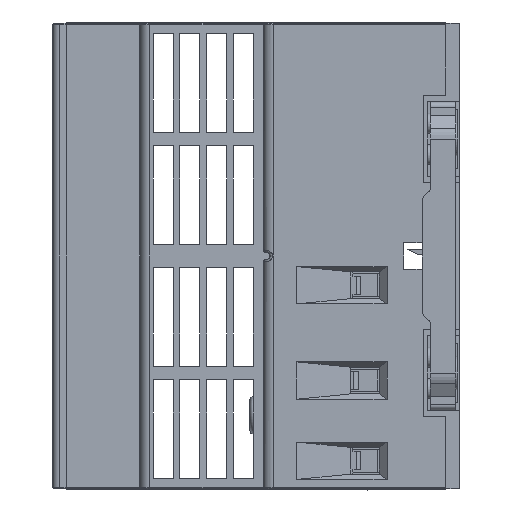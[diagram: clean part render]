
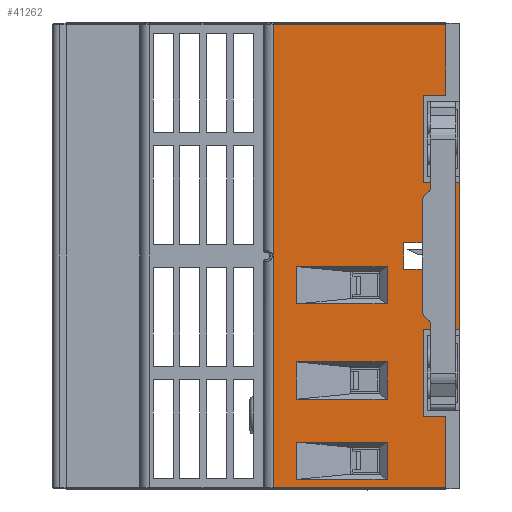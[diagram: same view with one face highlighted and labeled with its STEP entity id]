
A CAD part, left-side view. The second image highlights one B-rep face of the part: STEP entity #41262.
In plain terms, the highlighted planar face has unit normal (-1, 0, 0).
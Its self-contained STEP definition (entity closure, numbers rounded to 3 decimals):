
#8876=ORIENTED_EDGE('',*,*,#16812,.F.);
#8877=ORIENTED_EDGE('',*,*,#16806,.F.);
#8878=ORIENTED_EDGE('',*,*,#16803,.F.);
#8879=ORIENTED_EDGE('',*,*,#16811,.T.);
#8880=ORIENTED_EDGE('',*,*,#16577,.F.);
#8881=ORIENTED_EDGE('',*,*,#16689,.T.);
#8882=ORIENTED_EDGE('',*,*,#16684,.F.);
#8883=ORIENTED_EDGE('',*,*,#16692,.T.);
#8884=ORIENTED_EDGE('',*,*,#16813,.T.);
#8885=ORIENTED_EDGE('',*,*,#16694,.F.);
#8886=ORIENTED_EDGE('',*,*,#16679,.F.);
#8887=ORIENTED_EDGE('',*,*,#16687,.F.);
#8888=ORIENTED_EDGE('',*,*,#16814,.F.);
#8889=ORIENTED_EDGE('',*,*,#16815,.T.);
#8890=ORIENTED_EDGE('',*,*,#16816,.T.);
#8891=ORIENTED_EDGE('',*,*,#16817,.F.);
#8892=ORIENTED_EDGE('',*,*,#16818,.T.);
#8893=ORIENTED_EDGE('',*,*,#16819,.F.);
#8894=ORIENTED_EDGE('',*,*,#16820,.F.);
#8895=ORIENTED_EDGE('',*,*,#16821,.T.);
#8896=ORIENTED_EDGE('',*,*,#16822,.F.);
#8897=ORIENTED_EDGE('',*,*,#16555,.T.);
#8898=ORIENTED_EDGE('',*,*,#16560,.F.);
#8899=ORIENTED_EDGE('',*,*,#16559,.F.);
#8900=ORIENTED_EDGE('',*,*,#16823,.F.);
#8901=ORIENTED_EDGE('',*,*,#16824,.F.);
#8902=ORIENTED_EDGE('',*,*,#15704,.F.);
#8903=ORIENTED_EDGE('',*,*,#16825,.F.);
#8904=ORIENTED_EDGE('',*,*,#16826,.F.);
#8905=ORIENTED_EDGE('',*,*,#16827,.T.);
#8906=ORIENTED_EDGE('',*,*,#16828,.F.);
#8907=ORIENTED_EDGE('',*,*,#16829,.F.);
#15704=EDGE_CURVE('',#21198,#21199,#26470,.T.);
#16555=EDGE_CURVE('',#21821,#21824,#27138,.T.);
#16559=EDGE_CURVE('',#21828,#21826,#27142,.T.);
#16560=EDGE_CURVE('',#21826,#21824,#27143,.T.);
#16577=EDGE_CURVE('',#21842,#21843,#27160,.T.);
#16679=EDGE_CURVE('',#21926,#21927,#27248,.T.);
#16684=EDGE_CURVE('',#21931,#21932,#27253,.T.);
#16687=EDGE_CURVE('',#21843,#21926,#27256,.T.);
#16689=EDGE_CURVE('',#21842,#21932,#27258,.T.);
#16692=EDGE_CURVE('',#21931,#21934,#27261,.T.);
#16694=EDGE_CURVE('',#21927,#21936,#27263,.T.);
#16803=EDGE_CURVE('',#22037,#22038,#27358,.T.);
#16806=EDGE_CURVE('',#22038,#22040,#27361,.T.);
#16811=EDGE_CURVE('',#22037,#22041,#27366,.T.);
#16812=EDGE_CURVE('',#22040,#22041,#27367,.T.);
#16813=EDGE_CURVE('',#21934,#21936,#27368,.T.);
#16814=EDGE_CURVE('',#22042,#22043,#27369,.T.);
#16815=EDGE_CURVE('',#22042,#22044,#27370,.T.);
#16816=EDGE_CURVE('',#22044,#22045,#27371,.T.);
#16817=EDGE_CURVE('',#22043,#22045,#27372,.T.);
#16818=EDGE_CURVE('',#22046,#22047,#27373,.T.);
#16819=EDGE_CURVE('',#22048,#22047,#27374,.T.);
#16820=EDGE_CURVE('',#22049,#22048,#27375,.T.);
#16821=EDGE_CURVE('',#22049,#22046,#27376,.T.);
#16822=EDGE_CURVE('',#21821,#22050,#27377,.T.);
#16823=EDGE_CURVE('',#22051,#21828,#27378,.T.);
#16824=EDGE_CURVE('',#21199,#22051,#27379,.T.);
#16825=EDGE_CURVE('',#22052,#21198,#27380,.T.);
#16826=EDGE_CURVE('',#22053,#22052,#27381,.T.);
#16827=EDGE_CURVE('',#22053,#22054,#27382,.T.);
#16828=EDGE_CURVE('',#22055,#22054,#27383,.T.);
#16829=EDGE_CURVE('',#22050,#22055,#27384,.T.);
#21198=VERTEX_POINT('',#70815);
#21199=VERTEX_POINT('',#70817);
#21821=VERTEX_POINT('',#72626);
#21824=VERTEX_POINT('',#72631);
#21826=VERTEX_POINT('',#72636);
#21828=VERTEX_POINT('',#72640);
#21842=VERTEX_POINT('',#72678);
#21843=VERTEX_POINT('',#72680);
#21926=VERTEX_POINT('',#72962);
#21927=VERTEX_POINT('',#72964);
#21931=VERTEX_POINT('',#72973);
#21932=VERTEX_POINT('',#72975);
#21934=VERTEX_POINT('',#72987);
#21936=VERTEX_POINT('',#72993);
#22037=VERTEX_POINT('',#73214);
#22038=VERTEX_POINT('',#73216);
#22040=VERTEX_POINT('',#73222);
#22041=VERTEX_POINT('',#73228);
#22042=VERTEX_POINT('',#73235);
#22043=VERTEX_POINT('',#73236);
#22044=VERTEX_POINT('',#73238);
#22045=VERTEX_POINT('',#73240);
#22046=VERTEX_POINT('',#73243);
#22047=VERTEX_POINT('',#73244);
#22048=VERTEX_POINT('',#73246);
#22049=VERTEX_POINT('',#73248);
#22050=VERTEX_POINT('',#73251);
#22051=VERTEX_POINT('',#73253);
#22052=VERTEX_POINT('',#73256);
#22053=VERTEX_POINT('',#73258);
#22054=VERTEX_POINT('',#73260);
#22055=VERTEX_POINT('',#73262);
#26470=LINE('',#70816,#32093);
#27138=LINE('',#72632,#32761);
#27142=LINE('',#72641,#32765);
#27143=LINE('',#72643,#32766);
#27160=LINE('',#72679,#32783);
#27248=LINE('',#72963,#32871);
#27253=LINE('',#72974,#32876);
#27256=LINE('',#72979,#32879);
#27258=LINE('',#72982,#32881);
#27261=LINE('',#72988,#32884);
#27263=LINE('',#72992,#32886);
#27358=LINE('',#73215,#32981);
#27361=LINE('',#73221,#32984);
#27366=LINE('',#73229,#32989);
#27367=LINE('',#73231,#32990);
#27368=LINE('',#73233,#32991);
#27369=LINE('',#73234,#32992);
#27370=LINE('',#73237,#32993);
#27371=LINE('',#73239,#32994);
#27372=LINE('',#73241,#32995);
#27373=LINE('',#73242,#32996);
#27374=LINE('',#73245,#32997);
#27375=LINE('',#73247,#32998);
#27376=LINE('',#73249,#32999);
#27377=LINE('',#73250,#33000);
#27378=LINE('',#73252,#33001);
#27379=LINE('',#73254,#33002);
#27380=LINE('',#73255,#33003);
#27381=LINE('',#73257,#33004);
#27382=LINE('',#73259,#33005);
#27383=LINE('',#73261,#33006);
#27384=LINE('',#73263,#33007);
#32093=VECTOR('',#57226,1000.);
#32761=VECTOR('',#58688,1000.);
#32765=VECTOR('',#58694,1000.);
#32766=VECTOR('',#58697,1000.);
#32783=VECTOR('',#58724,1000.);
#32871=VECTOR('',#58862,1000.);
#32876=VECTOR('',#58869,1000.);
#32879=VECTOR('',#58874,1000.);
#32881=VECTOR('',#58878,1000.);
#32884=VECTOR('',#58883,1000.);
#32886=VECTOR('',#58887,1000.);
#32981=VECTOR('',#59026,1000.);
#32984=VECTOR('',#59031,1000.);
#32989=VECTOR('',#59038,1000.);
#32990=VECTOR('',#59041,1000.);
#32991=VECTOR('',#59044,1000.);
#32992=VECTOR('',#59045,1000.);
#32993=VECTOR('',#59046,1000.);
#32994=VECTOR('',#59047,1000.);
#32995=VECTOR('',#59048,1000.);
#32996=VECTOR('',#59049,1000.);
#32997=VECTOR('',#59050,1000.);
#32998=VECTOR('',#59051,1000.);
#32999=VECTOR('',#59052,1000.);
#33000=VECTOR('',#59053,1000.);
#33001=VECTOR('',#59054,1000.);
#33002=VECTOR('',#59055,1000.);
#33003=VECTOR('',#59056,1000.);
#33004=VECTOR('',#59057,1000.);
#33005=VECTOR('',#59058,1000.);
#33006=VECTOR('',#59059,1000.);
#33007=VECTOR('',#59060,1000.);
#35620=EDGE_LOOP('',(#8876,#8877,#8878,#8879));
#35621=EDGE_LOOP('',(#8880,#8881,#8882,#8883,#8884,#8885,#8886,#8887));
#35622=EDGE_LOOP('',(#8888,#8889,#8890,#8891));
#35623=EDGE_LOOP('',(#8892,#8893,#8894,#8895));
#35624=EDGE_LOOP('',(#8896,#8897,#8898,#8899,#8900,#8901,#8902,#8903,#8904,
#8905,#8906,#8907));
#37689=FACE_BOUND('',#35620,.T.);
#37690=FACE_BOUND('',#35621,.T.);
#37691=FACE_BOUND('',#35622,.T.);
#37692=FACE_BOUND('',#35623,.T.);
#37693=FACE_BOUND('',#35624,.T.);
#39488=PLANE('',#50460);
#41262=ADVANCED_FACE('',(#37689,#37690,#37691,#37692,#37693),#39488,.T.);
#50460=AXIS2_PLACEMENT_3D('',#73232,#59042,#59043);
#57226=DIRECTION('',(0.,0.,-1.));
#58688=DIRECTION('',(0.,-1.,0.));
#58694=DIRECTION('',(0.,-1.,0.));
#58697=DIRECTION('',(0.,0.,-1.));
#58724=DIRECTION('',(0.,0.,1.));
#58862=DIRECTION('',(0.,0.,-1.));
#58869=DIRECTION('',(0.,0.,-1.));
#58874=DIRECTION('',(0.,1.,0.));
#58878=DIRECTION('',(0.,1.,0.));
#58883=DIRECTION('',(0.,1.,0.));
#58887=DIRECTION('',(0.,1.,0.));
#59026=DIRECTION('',(0.,0.,1.));
#59031=DIRECTION('',(0.,1.,0.));
#59038=DIRECTION('',(0.,1.,0.));
#59041=DIRECTION('',(0.,0.,-1.));
#59042=DIRECTION('',(-1.,0.,0.));
#59043=DIRECTION('',(0.,0.,1.));
#59044=DIRECTION('',(0.,0.,1.));
#59045=DIRECTION('',(0.,1.,0.));
#59046=DIRECTION('',(0.,0.,-1.));
#59047=DIRECTION('',(0.,1.,0.));
#59048=DIRECTION('',(0.,0.,-1.));
#59049=DIRECTION('',(0.,1.,0.));
#59050=DIRECTION('',(0.,0.,-1.));
#59051=DIRECTION('',(0.,1.,0.));
#59052=DIRECTION('',(0.,0.,-1.));
#59053=DIRECTION('',(0.,0.,-1.));
#59054=DIRECTION('',(0.,0.,-1.));
#59055=DIRECTION('',(0.,1.,0.));
#59056=DIRECTION('',(0.,-1.,0.));
#59057=DIRECTION('',(0.,0.,1.));
#59058=DIRECTION('',(0.,-1.,0.));
#59059=DIRECTION('',(0.,0.,-1.));
#59060=DIRECTION('',(0.,-1.,0.));
#70815=CARTESIAN_POINT('',(-42.,-51.3,-0.4));
#70816=CARTESIAN_POINT('',(-42.,-51.3,-0.2));
#70817=CARTESIAN_POINT('',(-42.,-51.3,-10.95));
#72626=CARTESIAN_POINT('',(-42.,-48.,-45.95));
#72631=CARTESIAN_POINT('',(-42.,-53.3,-45.95));
#72632=CARTESIAN_POINT('',(-42.,-48.,-45.95));
#72636=CARTESIAN_POINT('',(-42.,-53.3,-24.05));
#72640=CARTESIAN_POINT('',(-42.,-48.,-24.05));
#72641=CARTESIAN_POINT('',(-42.,-48.,-24.05));
#72643=CARTESIAN_POINT('',(-42.,-53.3,-24.05));
#72678=CARTESIAN_POINT('',(-42.,-50.5,-38.5));
#72679=CARTESIAN_POINT('',(-42.,-50.5,-38.5));
#72680=CARTESIAN_POINT('',(-42.,-50.5,-31.5));
#72962=CARTESIAN_POINT('',(-42.,-48.05,-31.5));
#72963=CARTESIAN_POINT('',(-42.,-48.05,-31.5));
#72964=CARTESIAN_POINT('',(-42.,-48.05,-33.));
#72973=CARTESIAN_POINT('',(-42.,-48.05,-37.));
#72974=CARTESIAN_POINT('',(-42.,-48.05,-37.));
#72975=CARTESIAN_POINT('',(-42.,-48.05,-38.5));
#72979=CARTESIAN_POINT('',(-42.,-50.5,-31.5));
#72982=CARTESIAN_POINT('',(-42.,-50.5,-38.5));
#72987=CARTESIAN_POINT('',(-42.,-45.,-37.));
#72988=CARTESIAN_POINT('',(-42.,-48.05,-37.));
#72992=CARTESIAN_POINT('',(-42.,-48.05,-33.));
#72993=CARTESIAN_POINT('',(-42.,-45.,-33.));
#73214=CARTESIAN_POINT('',(-42.,-42.5,-56.425));
#73215=CARTESIAN_POINT('',(-42.,-42.5,-56.425));
#73216=CARTESIAN_POINT('',(-42.,-42.5,-50.825));
#73221=CARTESIAN_POINT('',(-42.,-42.15,-50.825));
#73222=CARTESIAN_POINT('',(-42.,-29.,-50.825));
#73228=CARTESIAN_POINT('',(-42.,-29.,-56.425));
#73229=CARTESIAN_POINT('',(-42.,-42.15,-56.425));
#73231=CARTESIAN_POINT('',(-42.,-29.,-50.825));
#73232=CARTESIAN_POINT('',(-42.,-53.311,-0.389));
#73233=CARTESIAN_POINT('',(-42.,-45.,-37.));
#73234=CARTESIAN_POINT('',(-42.,-42.5,-36.575));
#73235=CARTESIAN_POINT('',(-42.,-42.5,-36.575));
#73236=CARTESIAN_POINT('',(-42.,-29.,-36.575));
#73237=CARTESIAN_POINT('',(-42.,-42.5,-20.95));
#73238=CARTESIAN_POINT('',(-42.,-42.5,-42.175));
#73239=CARTESIAN_POINT('',(-42.,-42.5,-42.175));
#73240=CARTESIAN_POINT('',(-42.,-29.,-42.175));
#73241=CARTESIAN_POINT('',(-42.,-29.,-36.575));
#73242=CARTESIAN_POINT('',(-42.,-42.5,-68.425));
#73243=CARTESIAN_POINT('',(-42.,-42.5,-68.425));
#73244=CARTESIAN_POINT('',(-42.,-29.,-68.425));
#73245=CARTESIAN_POINT('',(-42.,-29.,-62.825));
#73246=CARTESIAN_POINT('',(-42.,-29.,-62.825));
#73247=CARTESIAN_POINT('',(-42.,-42.5,-62.825));
#73248=CARTESIAN_POINT('',(-42.,-42.5,-62.825));
#73249=CARTESIAN_POINT('',(-42.,-42.5,-62.825));
#73250=CARTESIAN_POINT('',(-42.,-48.,-45.95));
#73251=CARTESIAN_POINT('',(-42.,-48.,-59.05));
#73252=CARTESIAN_POINT('',(-42.,-48.,-10.95));
#73253=CARTESIAN_POINT('',(-42.,-48.,-10.95));
#73254=CARTESIAN_POINT('',(-42.,-51.3,-10.95));
#73255=CARTESIAN_POINT('',(-42.,-25.5,-0.4));
#73256=CARTESIAN_POINT('',(-42.,-25.5,-0.4));
#73257=CARTESIAN_POINT('',(-42.,-25.5,-69.6));
#73258=CARTESIAN_POINT('',(-42.,-25.5,-69.6));
#73259=CARTESIAN_POINT('',(-42.,-25.5,-69.6));
#73260=CARTESIAN_POINT('',(-42.,-51.3,-69.6));
#73261=CARTESIAN_POINT('',(-42.,-51.3,-59.05));
#73262=CARTESIAN_POINT('',(-42.,-51.3,-59.05));
#73263=CARTESIAN_POINT('',(-42.,-48.,-59.05));
